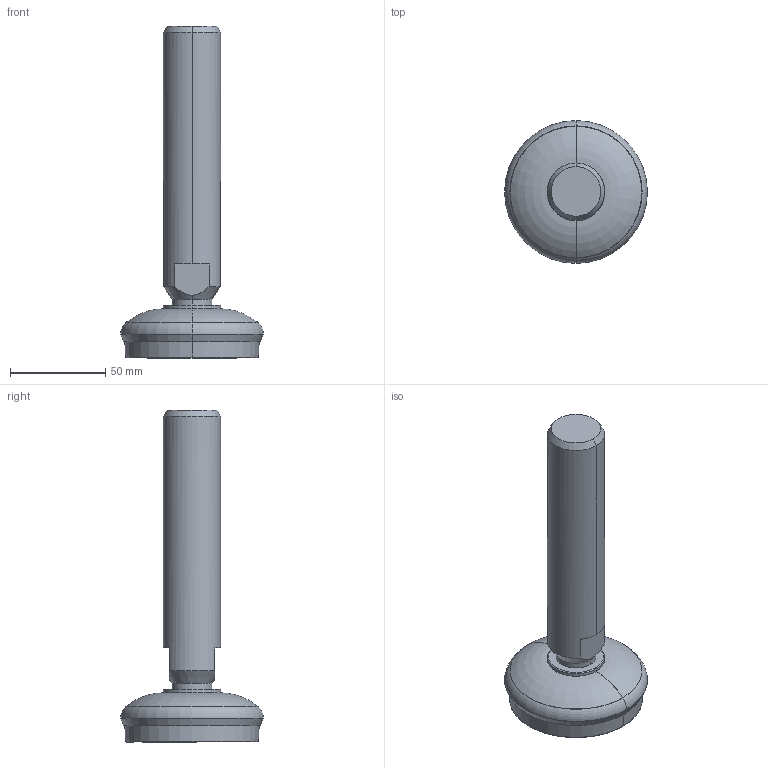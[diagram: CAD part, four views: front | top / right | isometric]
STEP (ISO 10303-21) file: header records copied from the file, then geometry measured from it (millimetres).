
FILE_DESCRIPTION (( 'STEP AP214' ), '1' );
FILE_NAME ('8567838.STEP', '2024-01-24T12:13:26', ( '' ), ( '' ), 'SwSTEP 2.0', 'SolidWorks 2022', '' );
FILE_SCHEMA (( 'AUTOMOTIVE_DESIGN' ));
Length unit declared in the file: millimetre
Products named in the file (1): 8567838
Bounding box: 74.99 x 74.99 x 174.37 mm (x, y, z)
Volume: 193940.5 mm3; surface area: 42813.3 mm2
Topology: 4 solids, 4 shells, 120 faces, 242 edges, 144 vertices
Faces by surface type: cone 36, torus 34, plane 26, cylinder 24
Entity records: 4665 total; most frequent: DIRECTION 652, CARTESIAN_POINT 629, ORIENTED_EDGE 484, AXIS2_PLACEMENT_3D 293, EDGE_CURVE 242, CIRCLE 172, VERTEX_POINT 144, EDGE_LOOP 138
